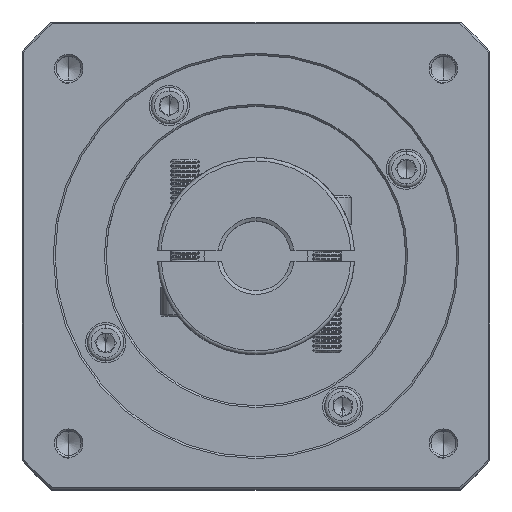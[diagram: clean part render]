
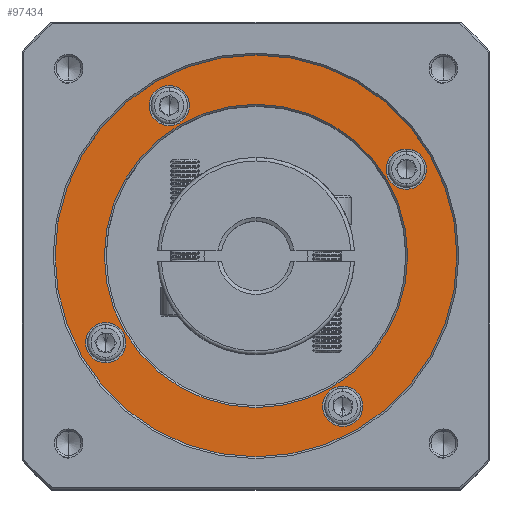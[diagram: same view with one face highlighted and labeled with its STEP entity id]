
A CAD part, top view. The second image highlights one B-rep face of the part: STEP entity #97434.
In plain terms, the highlighted planar face has unit normal (0, 0, 1).
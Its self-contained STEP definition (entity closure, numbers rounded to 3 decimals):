
#2640 = DIRECTION ( 'NONE',  ( 0., 0., -1. ) ) ;
#2656 = FACE_BOUND ( 'NONE', #5396, .T. ) ;
#3631 = CARTESIAN_POINT ( 'NONE',  ( 59.296, 39.211, -8.954 ) ) ;
#5396 = EDGE_LOOP ( 'NONE', ( #135199, #74245 ) ) ;
#8900 = CIRCLE ( 'NONE', #79416, 5.5 ) ;
#9994 = VERTEX_POINT ( 'NONE', #46159 ) ;
#10745 = DIRECTION ( 'NONE',  ( 0., 0., -1. ) ) ;
#11059 = VERTEX_POINT ( 'NONE', #13138 ) ;
#11360 = CIRCLE ( 'NONE', #29397, 5.5 ) ;
#13138 = CARTESIAN_POINT ( 'NONE',  ( 35.546, 74.848, -8.954 ) ) ;
#15175 = CIRCLE ( 'NONE', #64811, 41.5 ) ;
#16183 = DIRECTION ( 'NONE',  ( 0., 0., -1. ) ) ;
#16743 = EDGE_CURVE ( 'NONE', #131572, #113508, #132885, .T. ) ;
#18633 = EDGE_CURVE ( 'NONE', #71881, #47681, #11360, .T. ) ;
#19244 = DIRECTION ( 'NONE',  ( 0., 0., -1. ) ) ;
#22812 = DIRECTION ( 'NONE',  ( 0., 1., 0. ) ) ;
#23945 = CIRCLE ( 'NONE', #104224, 5.5 ) ;
#24949 = VERTEX_POINT ( 'NONE', #38760 ) ;
#27045 = AXIS2_PLACEMENT_3D ( 'NONE', #133166, #123283, #112069 ) ;
#29126 = CARTESIAN_POINT ( 'NONE',  ( 83.046, -7.425, -8.954 ) ) ;
#29397 = AXIS2_PLACEMENT_3D ( 'NONE', #133768, #100592, #69739 ) ;
#29829 = DIRECTION ( 'NONE',  ( 0., 1., 0. ) ) ;
#30753 = EDGE_LOOP ( 'NONE', ( #59641, #87117 ) ) ;
#31069 = CIRCLE ( 'NONE', #27045, 55. ) ;
#31224 = FACE_BOUND ( 'NONE', #30753, .T. ) ;
#32078 = CARTESIAN_POINT ( 'NONE',  ( 83.046, -1.925, -8.954 ) ) ;
#32647 = CARTESIAN_POINT ( 'NONE',  ( 35.546, 80.348, -8.954 ) ) ;
#33579 = VERTEX_POINT ( 'NONE', #29126 ) ;
#33986 = CARTESIAN_POINT ( 'NONE',  ( 18.16, 20.961, -8.954 ) ) ;
#37719 = ORIENTED_EDGE ( 'NONE', *, *, #61395, .T. ) ;
#38760 = CARTESIAN_POINT ( 'NONE',  ( 59.296, -15.789, -8.954 ) ) ;
#39849 = AXIS2_PLACEMENT_3D ( 'NONE', #40249, #19244, #84090 ) ;
#40249 = CARTESIAN_POINT ( 'NONE',  ( 18.16, 15.461, -8.954 ) ) ;
#42284 = CARTESIAN_POINT ( 'NONE',  ( 18.16, 15.461, -8.954 ) ) ;
#43593 = AXIS2_PLACEMENT_3D ( 'NONE', #68208, #77959, #77035 ) ;
#44360 = EDGE_CURVE ( 'NONE', #60337, #33579, #114497, .T. ) ;
#46159 = CARTESIAN_POINT ( 'NONE',  ( 59.296, 94.211, -8.954 ) ) ;
#47052 = VERTEX_POINT ( 'NONE', #60902 ) ;
#47681 = VERTEX_POINT ( 'NONE', #117227 ) ;
#49279 = CARTESIAN_POINT ( 'NONE',  ( 100.796, 39.211, -8.954 ) ) ;
#53002 = FACE_BOUND ( 'NONE', #98833, .T. ) ;
#57567 = DIRECTION ( 'NONE',  ( 0., 1., 0. ) ) ;
#58131 = AXIS2_PLACEMENT_3D ( 'NONE', #69926, #16183, #58773 ) ;
#58558 = EDGE_CURVE ( 'NONE', #9994, #24949, #31069, .T. ) ;
#58585 = AXIS2_PLACEMENT_3D ( 'NONE', #3631, #99999, #57567 ) ;
#58773 = DIRECTION ( 'NONE',  ( 1., 0., 0. ) ) ;
#59641 = ORIENTED_EDGE ( 'NONE', *, *, #16743, .T. ) ;
#60337 = VERTEX_POINT ( 'NONE', #76941 ) ;
#60902 = CARTESIAN_POINT ( 'NONE',  ( 17.796, 39.211, -8.954 ) ) ;
#60970 = CIRCLE ( 'NONE', #91806, 5.5 ) ;
#61395 = EDGE_CURVE ( 'NONE', #11059, #68858, #63739, .T. ) ;
#62543 = AXIS2_PLACEMENT_3D ( 'NONE', #131715, #130307, #67672 ) ;
#63739 = CIRCLE ( 'NONE', #62543, 5.5 ) ;
#64811 = AXIS2_PLACEMENT_3D ( 'NONE', #130356, #2640, #118632 ) ;
#65689 = EDGE_CURVE ( 'NONE', #68858, #11059, #23945, .T. ) ;
#67672 = DIRECTION ( 'NONE',  ( 0., 1., 0. ) ) ;
#68208 = CARTESIAN_POINT ( 'NONE',  ( 59.296, 39.211, -8.954 ) ) ;
#68858 = VERTEX_POINT ( 'NONE', #126727 ) ;
#69307 = CIRCLE ( 'NONE', #112075, 5.5 ) ;
#69739 = DIRECTION ( 'NONE',  ( 0., 1., 0. ) ) ;
#69926 = CARTESIAN_POINT ( 'NONE',  ( 59.296, 39.211, -8.954 ) ) ;
#71881 = VERTEX_POINT ( 'NONE', #111564 ) ;
#73526 = DIRECTION ( 'NONE',  ( 0., 1., 0. ) ) ;
#74245 = ORIENTED_EDGE ( 'NONE', *, *, #121243, .T. ) ;
#76566 = PLANE ( 'NONE',  #43593 ) ;
#76941 = CARTESIAN_POINT ( 'NONE',  ( 83.046, 3.575, -8.954 ) ) ;
#77035 = DIRECTION ( 'NONE',  ( 0., 1., 0. ) ) ;
#77931 = FACE_OUTER_BOUND ( 'NONE', #108694, .T. ) ;
#77959 = DIRECTION ( 'NONE',  ( 0., 0., 1. ) ) ;
#79416 = AXIS2_PLACEMENT_3D ( 'NONE', #42284, #117009, #73526 ) ;
#79474 = EDGE_CURVE ( 'NONE', #47681, #71881, #60970, .T. ) ;
#83052 = ORIENTED_EDGE ( 'NONE', *, *, #95200, .T. ) ;
#84090 = DIRECTION ( 'NONE',  ( 0., 1., 0. ) ) ;
#84691 = FACE_BOUND ( 'NONE', #87628, .T. ) ;
#86261 = DIRECTION ( 'NONE',  ( 0., 0., -1. ) ) ;
#87117 = ORIENTED_EDGE ( 'NONE', *, *, #131943, .T. ) ;
#87302 = DIRECTION ( 'NONE',  ( 0., 0., -1. ) ) ;
#87628 = EDGE_LOOP ( 'NONE', ( #101071, #109751 ) ) ;
#89728 = EDGE_CURVE ( 'NONE', #93395, #47052, #15175, .T. ) ;
#91806 = AXIS2_PLACEMENT_3D ( 'NONE', #95204, #94306, #29829 ) ;
#93395 = VERTEX_POINT ( 'NONE', #49279 ) ;
#94306 = DIRECTION ( 'NONE',  ( 0., 0., -1. ) ) ;
#95200 = EDGE_CURVE ( 'NONE', #33579, #60337, #69307, .T. ) ;
#95204 = CARTESIAN_POINT ( 'NONE',  ( 100.432, 62.961, -8.954 ) ) ;
#95879 = CARTESIAN_POINT ( 'NONE',  ( 83.046, -1.925, -8.954 ) ) ;
#97434 = ADVANCED_FACE ( 'NONE', ( #77931, #2656, #113127, #84691, #31224, #53002 ), #76566, .T. ) ;
#97699 = DIRECTION ( 'NONE',  ( 0., 1., 0. ) ) ;
#98833 = EDGE_LOOP ( 'NONE', ( #134817, #83052 ) ) ;
#99999 = DIRECTION ( 'NONE',  ( 0., 0., 1. ) ) ;
#100406 = CIRCLE ( 'NONE', #58585, 55. ) ;
#100592 = DIRECTION ( 'NONE',  ( 0., 0., -1. ) ) ;
#101071 = ORIENTED_EDGE ( 'NONE', *, *, #18633, .T. ) ;
#102983 = ORIENTED_EDGE ( 'NONE', *, *, #107766, .T. ) ;
#104224 = AXIS2_PLACEMENT_3D ( 'NONE', #32647, #87302, #22812 ) ;
#107766 = EDGE_CURVE ( 'NONE', #24949, #9994, #100406, .T. ) ;
#108393 = ORIENTED_EDGE ( 'NONE', *, *, #58558, .T. ) ;
#108694 = EDGE_LOOP ( 'NONE', ( #108393, #102983 ) ) ;
#109751 = ORIENTED_EDGE ( 'NONE', *, *, #79474, .T. ) ;
#111564 = CARTESIAN_POINT ( 'NONE',  ( 100.432, 68.461, -8.954 ) ) ;
#112069 = DIRECTION ( 'NONE',  ( 0., 1., 0. ) ) ;
#112075 = AXIS2_PLACEMENT_3D ( 'NONE', #95879, #10745, #97699 ) ;
#113127 = FACE_BOUND ( 'NONE', #127301, .T. ) ;
#113508 = VERTEX_POINT ( 'NONE', #115658 ) ;
#114497 = CIRCLE ( 'NONE', #127026, 5.5 ) ;
#115658 = CARTESIAN_POINT ( 'NONE',  ( 18.16, 9.961, -8.954 ) ) ;
#117009 = DIRECTION ( 'NONE',  ( 0., 0., -1. ) ) ;
#117227 = CARTESIAN_POINT ( 'NONE',  ( 100.432, 57.461, -8.954 ) ) ;
#118632 = DIRECTION ( 'NONE',  ( 1., 0., 0. ) ) ;
#119193 = CIRCLE ( 'NONE', #58131, 41.5 ) ;
#121243 = EDGE_CURVE ( 'NONE', #47052, #93395, #119193, .T. ) ;
#123283 = DIRECTION ( 'NONE',  ( 0., 0., 1. ) ) ;
#126727 = CARTESIAN_POINT ( 'NONE',  ( 35.546, 85.848, -8.954 ) ) ;
#127026 = AXIS2_PLACEMENT_3D ( 'NONE', #32078, #86261, #138190 ) ;
#127301 = EDGE_LOOP ( 'NONE', ( #127828, #37719 ) ) ;
#127828 = ORIENTED_EDGE ( 'NONE', *, *, #65689, .T. ) ;
#130307 = DIRECTION ( 'NONE',  ( 0., 0., -1. ) ) ;
#130356 = CARTESIAN_POINT ( 'NONE',  ( 59.296, 39.211, -8.954 ) ) ;
#131572 = VERTEX_POINT ( 'NONE', #33986 ) ;
#131715 = CARTESIAN_POINT ( 'NONE',  ( 35.546, 80.348, -8.954 ) ) ;
#131943 = EDGE_CURVE ( 'NONE', #113508, #131572, #8900, .T. ) ;
#132885 = CIRCLE ( 'NONE', #39849, 5.5 ) ;
#133166 = CARTESIAN_POINT ( 'NONE',  ( 59.296, 39.211, -8.954 ) ) ;
#133768 = CARTESIAN_POINT ( 'NONE',  ( 100.432, 62.961, -8.954 ) ) ;
#134817 = ORIENTED_EDGE ( 'NONE', *, *, #44360, .T. ) ;
#135199 = ORIENTED_EDGE ( 'NONE', *, *, #89728, .T. ) ;
#138190 = DIRECTION ( 'NONE',  ( 0., 1., 0. ) ) ;
